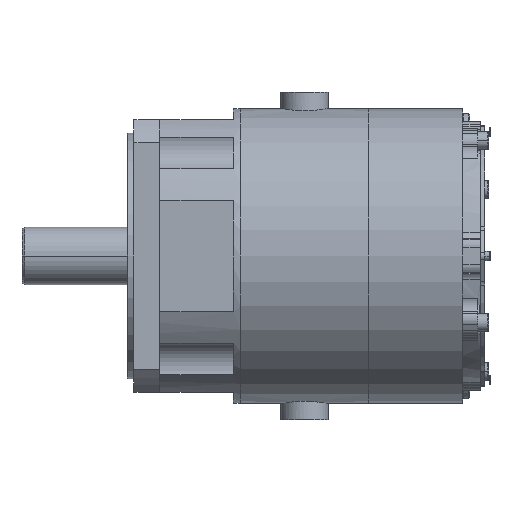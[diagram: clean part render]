
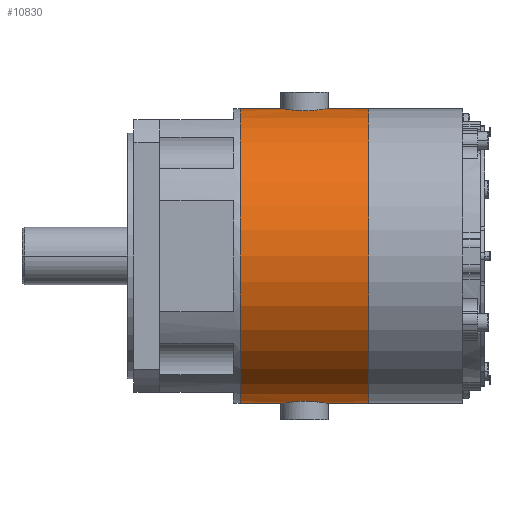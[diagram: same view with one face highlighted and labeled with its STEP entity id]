
A CAD part, front view. The second image highlights one B-rep face of the part: STEP entity #10830.
In plain terms, the highlighted cylindrical face has radius 108 mm (diameter 216 mm), a partial arc.
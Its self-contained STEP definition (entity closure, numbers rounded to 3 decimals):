
#9523=DIRECTION('',(1.,0.,0.));
#9524=VECTOR('',#9523,37.);
#9525=CARTESIAN_POINT('',(78.,0.,-108.));
#9526=LINE('',#9525,#9524);
#9527=CARTESIAN_POINT('',(135.,0.,-108.));
#9542=CARTESIAN_POINT('',(115.,0.,-108.));
#9544=DIRECTION('',(1.,0.,0.));
#9545=VECTOR('',#9544,37.);
#9546=CARTESIAN_POINT('',(135.,0.,-108.));
#9547=LINE('',#9546,#9545);
#9553=CARTESIAN_POINT('',(135.,0.,108.));
#9554=CARTESIAN_POINT('',(135.,-0.801,108.));
#9555=CARTESIAN_POINT('',(134.817,-2.364,107.983));
#9556=CARTESIAN_POINT('',(133.944,-4.698,107.905));
#9557=CARTESIAN_POINT('',(132.552,-6.697,107.797));
#9558=CARTESIAN_POINT('',(130.777,-8.282,107.685));
#9559=CARTESIAN_POINT('',(128.577,-9.45,107.587));
#9560=CARTESIAN_POINT('',(126.175,-10.026,107.534));
#9561=CARTESIAN_POINT('',(123.819,-10.025,107.534));
#9562=CARTESIAN_POINT('',(121.42,-9.449,107.587));
#9563=CARTESIAN_POINT('',(119.215,-8.277,107.685));
#9564=CARTESIAN_POINT('',(117.435,-6.682,107.798));
#9565=CARTESIAN_POINT('',(116.054,-4.691,107.906));
#9566=CARTESIAN_POINT('',(115.183,-2.363,107.983));
#9567=CARTESIAN_POINT('',(115.,-0.801,108.));
#9568=CARTESIAN_POINT('',(115.,0.,108.));
#9570=DIRECTION('',(1.,0.,0.));
#9571=VECTOR('',#9570,37.);
#9572=CARTESIAN_POINT('',(135.,0.,108.));
#9573=LINE('',#9572,#9571);
#9574=CARTESIAN_POINT('',(172.,0.,0.));
#9575=DIRECTION('',(1.,0.,0.));
#9576=DIRECTION('',(0.,0.,1.));
#9577=AXIS2_PLACEMENT_3D('',#9574,#9575,#9576);
#9579=CARTESIAN_POINT('',(115.,0.,-108.));
#9580=CARTESIAN_POINT('',(115.,-0.801,-108.));
#9581=CARTESIAN_POINT('',(115.183,-2.362,
-107.983));
#9582=CARTESIAN_POINT('',(116.054,-4.691,
-107.906));
#9583=CARTESIAN_POINT('',(117.435,-6.682,
-107.798));
#9584=CARTESIAN_POINT('',(119.214,-8.277,
-107.685));
#9585=CARTESIAN_POINT('',(121.419,-9.448,
-107.587));
#9586=CARTESIAN_POINT('',(123.818,-10.025,
-107.534));
#9587=CARTESIAN_POINT('',(126.174,-10.026,
-107.534));
#9588=CARTESIAN_POINT('',(128.577,-9.45,
-107.587));
#9589=CARTESIAN_POINT('',(130.777,-8.282,
-107.685));
#9590=CARTESIAN_POINT('',(132.552,-6.697,
-107.797));
#9591=CARTESIAN_POINT('',(133.944,-4.698,
-107.905));
#9592=CARTESIAN_POINT('',(134.817,-2.364,
-107.983));
#9593=CARTESIAN_POINT('',(135.,-0.801,-108.));
#9594=CARTESIAN_POINT('',(135.,0.,-108.));
#9596=CARTESIAN_POINT('',(78.,0.,0.));
#9597=DIRECTION('',(-1.,0.,0.));
#9598=DIRECTION('',(0.,0.,-1.));
#9599=AXIS2_PLACEMENT_3D('',#9596,#9597,#9598);
#9601=DIRECTION('',(1.,0.,0.));
#9602=VECTOR('',#9601,37.);
#9603=CARTESIAN_POINT('',(78.,0.,108.));
#9604=LINE('',#9603,#9602);
#9835=CARTESIAN_POINT('',(172.,0.,108.));
#9836=CARTESIAN_POINT('',(172.,0.,-108.));
#9837=VERTEX_POINT('',#9835);
#9838=VERTEX_POINT('',#9836);
#9839=CARTESIAN_POINT('',(78.,0.,108.));
#9840=CARTESIAN_POINT('',(78.,0.,-108.));
#9841=VERTEX_POINT('',#9839);
#9842=VERTEX_POINT('',#9840);
#10175=VERTEX_POINT('',#9527);
#10176=VERTEX_POINT('',#9542);
#10193=CARTESIAN_POINT('',(135.,0.,108.));
#10194=VERTEX_POINT('',#10193);
#10195=CARTESIAN_POINT('',(115.,0.,108.));
#10196=VERTEX_POINT('',#10195);
#10812=CARTESIAN_POINT('',(78.,0.,0.));
#10813=DIRECTION('',(-1.,0.,0.));
#10814=DIRECTION('',(0.,0.,-1.));
#10815=AXIS2_PLACEMENT_3D('',#10812,#10813,#10814);
#10816=CYLINDRICAL_SURFACE('',#10815,108.);
#10817=ORIENTED_EDGE('',*,*,#10676,.F.);
#10818=ORIENTED_EDGE('',*,*,#10807,.T.);
#10820=ORIENTED_EDGE('',*,*,#10819,.T.);
#10821=ORIENTED_EDGE('',*,*,#10803,.F.);
#10823=ORIENTED_EDGE('',*,*,#10822,.F.);
#10824=ORIENTED_EDGE('',*,*,#10799,.F.);
#10826=ORIENTED_EDGE('',*,*,#10825,.T.);
#10827=ORIENTED_EDGE('',*,*,#10795,.T.);
#10828=EDGE_LOOP('',(#10817,#10818,#10820,#10821,#10823,#10824,#10826,#10827));
#10829=FACE_OUTER_BOUND('',#10828,.F.);
#10830=ADVANCED_FACE('',(#10829),#10816,.T.);
#9569=B_SPLINE_CURVE_WITH_KNOTS('',3,(#9553,#9554,#9555,#9556,#9557,#9558,#9559,
#9560,#9561,#9562,#9563,#9564,#9565,#9566,#9567,#9568),.UNSPECIFIED.,.F.,.F.,(4,
1,1,1,1,1,1,1,1,1,1,1,1,4),(0.,0.077,0.154,
0.231,0.308,0.385,0.462,
0.538,0.615,0.692,0.769,
0.846,0.923,1.),.UNSPECIFIED.);
#9578=CIRCLE('',#9577,108.);
#9595=B_SPLINE_CURVE_WITH_KNOTS('',3,(#9579,#9580,#9581,#9582,#9583,#9584,#9585,
#9586,#9587,#9588,#9589,#9590,#9591,#9592,#9593,#9594),.UNSPECIFIED.,.F.,.F.,(4,
1,1,1,1,1,1,1,1,1,1,1,1,4),(0.,0.077,0.154,
0.231,0.308,0.385,0.462,
0.538,0.615,0.692,0.769,
0.846,0.923,1.),.UNSPECIFIED.);
#9600=CIRCLE('',#9599,108.);
#10676=EDGE_CURVE('',#10194,#10196,#9569,.T.);
#10795=EDGE_CURVE('',#9841,#10196,#9604,.T.);
#10799=EDGE_CURVE('',#9842,#10176,#9526,.T.);
#10803=EDGE_CURVE('',#10175,#9838,#9547,.T.);
#10807=EDGE_CURVE('',#10194,#9837,#9573,.T.);
#10819=EDGE_CURVE('',#9837,#9838,#9578,.T.);
#10822=EDGE_CURVE('',#10176,#10175,#9595,.T.);
#10825=EDGE_CURVE('',#9842,#9841,#9600,.T.);
